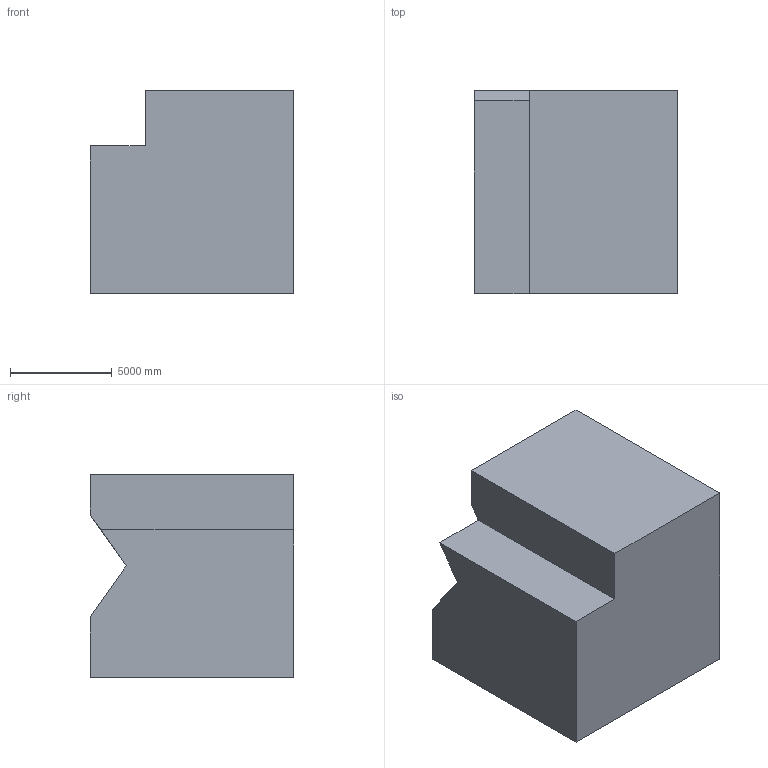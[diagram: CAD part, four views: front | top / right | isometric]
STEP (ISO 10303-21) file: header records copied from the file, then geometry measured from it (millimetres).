
FILE_DESCRIPTION (( 'STEP AP203' ), '1' );
FILE_NAME ('196.STEP', '2022-07-28T13:52:20', ( 'user' ), ( '' ), 'SwSTEP 2.0', 'SolidWorks 2021', '' );
FILE_SCHEMA (( 'CONFIG_CONTROL_DESIGN' ));
Length unit declared in the file: centimetre
Products named in the file (1): 196
Bounding box: 10000 x 10000 x 10000 mm (x, y, z)
Volume: 882730460161.2 mm3; surface area: 585738846.1 mm2
Topology: 1 solids, 1 shells, 11 faces, 27 edges, 18 vertices
Faces by surface type: plane 11
Entity records: 398 total; most frequent: CARTESIAN_POINT 57, ORIENTED_EDGE 54, DIRECTION 51, EDGE_CURVE 27, VECTOR 27, LINE 27, VERTEX_POINT 18, AXIS2_PLACEMENT_3D 12
